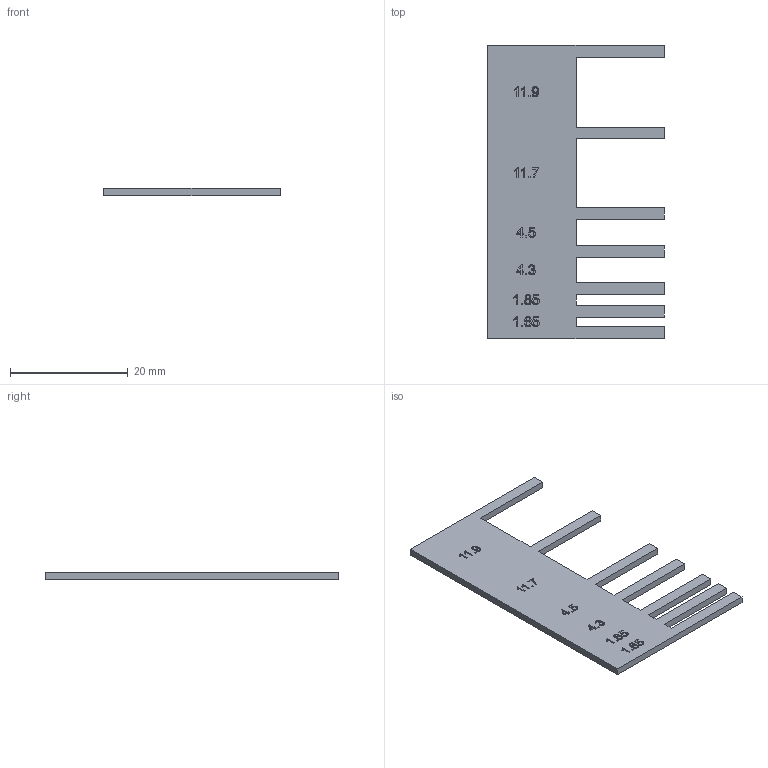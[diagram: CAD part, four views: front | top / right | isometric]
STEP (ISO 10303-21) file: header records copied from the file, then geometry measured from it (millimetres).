
FILE_DESCRIPTION(('Open CASCADE Model'),'2;1');
FILE_NAME('Open CASCADE Shape Model','2026-11-14T12:48:53',('Author'),( 'Open CASCADE'),'Open CASCADE STEP processor 7.9','Open CASCADE 7.9' ,'Unknown');
FILE_SCHEMA(('AUTOMOTIVE_DESIGN { 1 0 10303 214 1 1 1 1 }'));
Length unit declared in the file: millimetre
Products named in the file (1): Open CASCADE STEP translator 7.9 10
Bounding box: 30 x 49.9 x 1.2 mm (x, y, z)
Volume: 1146.9 mm3; surface area: 2359.8 mm2
Topology: 1 solids, 1 shells, 362 faces, 996 edges, 664 vertices
Faces by surface type: extrusion 191, plane 171
Entity records: 27645 total; most frequent: CARTESIAN_POINT 9352, DIRECTION 2568, VECTOR 2224, LINE 2033, ORIENTED_EDGE 1992, PCURVE 1992, DEFINITIONAL_REPRESENTATION 1992, B_SPLINE_CURVE_WITH_KNOTS 1146
